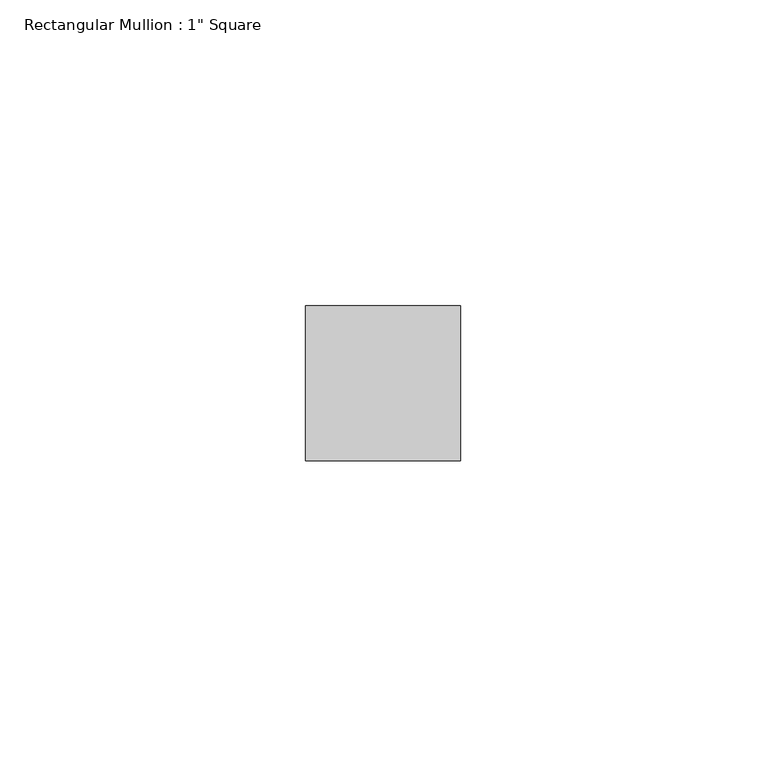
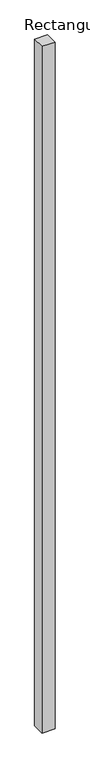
"""IFC4 building model written with IfcOpenShell, lengths in millimetres: member geometry."""

from ifc_helpers import new_model, si_unit, frame, origin, place, context, project, spatial, polyline, outline, extrude, source, transform, mapped, element, save


def member_f1f58849(model_context):
    return source(origin(), model_context, "Body", "SweptSolid", [
        extrude(outline(polyline([(12.7, 12.7), (12.7, -12.7), (-12.7, -12.7), (-12.7, 12.7), (12.7, 12.7)])), frame((0.0, 0.0, -1440.3007139), z_axis=(0.0, 0.0, 1.0), x_axis=(1.0, 0.0, 0.0)), (0.0, 0.0, 1.0), 1440.3007139),
    ])


if __name__ == "__main__":
    model = new_model("IFC4")
    model_context = context("Model", 3, world=origin())
    ifc_project = project(units=[si_unit("LENGTHUNIT", "METRE", prefix="MILLI")], contexts=[model_context])
    site = spatial("IfcSite", under=ifc_project)
    building = spatial("IfcBuilding", under=site)
    placement = place(None, origin())
    member_shape = member_f1f58849(model_context)
    element("IfcMember", 1, ObjectType="Rectangular Mullion : 1\" Square", at=placement, inside=building, context=model_context, shape_type="MappedRepresentation", body=[
        mapped(member_shape, transform((0.0, 0.0, 0.0), x_axis=(1.0, 0.0, 0.0), y_axis=(0.0, 1.0, 0.0), z_axis=(0.0, 0.0, 1.0))),
    ])
    save(model, "model.ifc")
